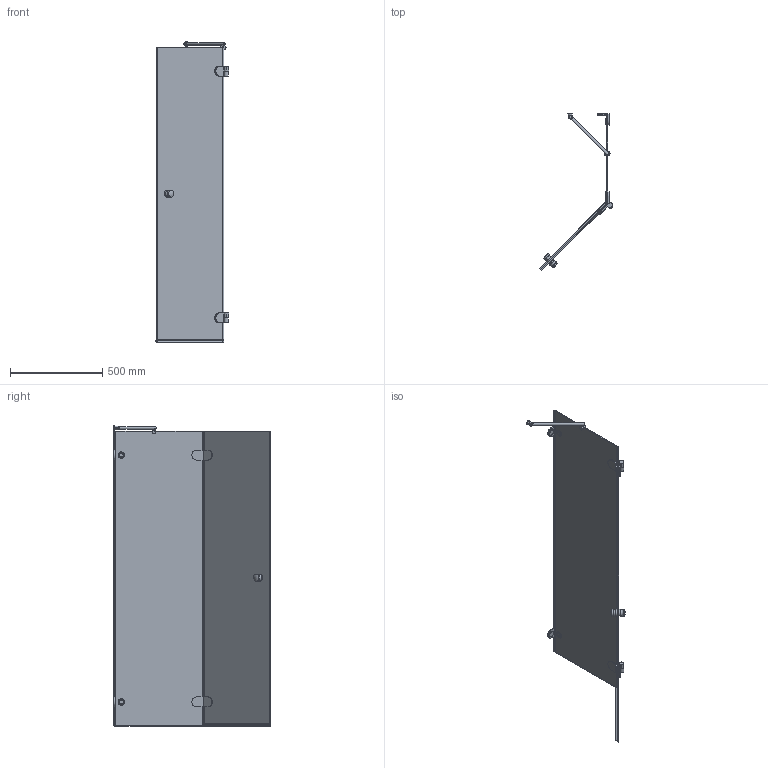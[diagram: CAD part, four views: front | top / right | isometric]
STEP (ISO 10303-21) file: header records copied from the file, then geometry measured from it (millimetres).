
FILE_DESCRIPTION(/* description */ (''),/* implementation_level */ '2;1');
FILE_NAME(/* name */ 'E:\Работа\Сергей\Душевые кабинки\! Работа\!!!\LUX PEARL GV-002-135\LUX PEARL GV-002-135 правая модель\LUX PEARL GV-002-135 ПРАВАЯ-3D.stp',/* time_stamp */ '2018-06-30T08:58:11+03:00',/* author */ ('PC'),/* organization */ (''),/* preprocessor_version */ 'ST-DEVELOPER v15.2',/* originating_system */ 'Autodesk Inventor 2014',/* authorisation */ '');
FILE_SCHEMA (('CONFIG_CONTROL_DESIGN'));
Length unit declared in the file: millimetre
Products named in the file (1): LUX PEARL GV-002-135 ПРАВАЯ-3
D
Bounding box: 399.74 x 852.85 x 1633.89 mm (x, y, z)
Volume: 10148276.2 mm3; surface area: 3393906 mm2
Topology: 5 solids, 5 shells, 283 faces, 745 edges, 494 vertices
Faces by surface type: plane 179, cylinder 83, torus 7, sphere 6, bspline 6, cone 2
Full cylindrical faces by diameter (mm): 12 x1, 15 x1, 20 x2, 26 x1, 30 x2, 35 x2, 38 x4, 40 x2
Entity records: 9125 total; most frequent: CARTESIAN_POINT 1812, DIRECTION 1445, ORIENTED_EDGE 1412, EDGE_CURVE 706, LINE 487, VECTOR 487, VERTEX_POINT 482, AXIS2_PLACEMENT_3D 479
